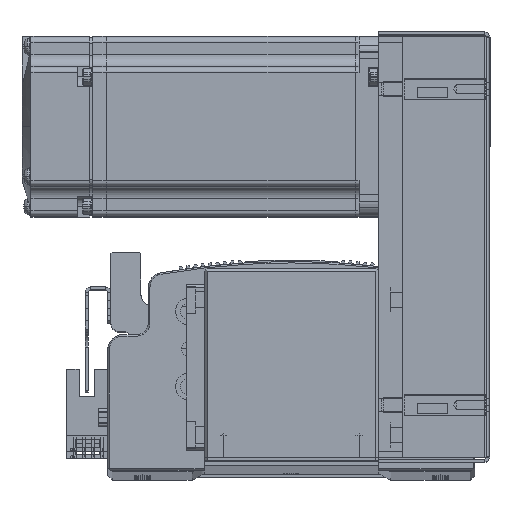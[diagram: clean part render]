
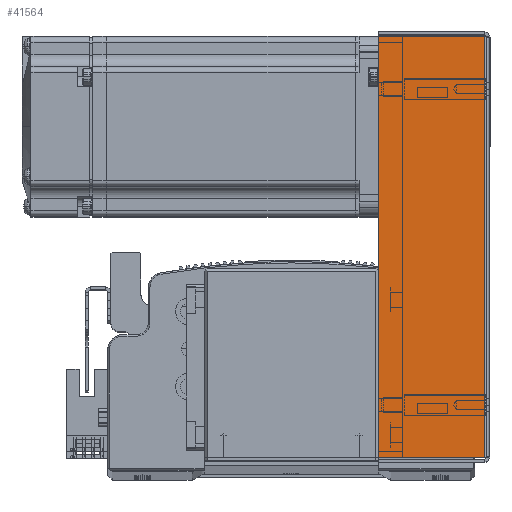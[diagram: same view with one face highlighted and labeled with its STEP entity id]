
A CAD part, top view. The second image highlights one B-rep face of the part: STEP entity #41564.
In plain terms, the highlighted planar face has unit normal (0, 0, 1) as drawn and (0, 0, -1) by its records, which use the part's own axes.
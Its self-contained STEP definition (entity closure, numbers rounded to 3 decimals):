
#4302 = CARTESIAN_POINT ( 'NONE',  ( 69.793, 36., -33.5 ) ) ;
#4401 = CARTESIAN_POINT ( 'NONE',  ( -69.793, 36., -33.5 ) ) ;
#4413 = CARTESIAN_POINT ( 'NONE',  ( -69.793, 0.737, -33.5 ) ) ;
#4428 = CARTESIAN_POINT ( 'NONE',  ( 69.793, 0.737, -33.5 ) ) ;
#12343 = AXIS2_PLACEMENT_3D ( 'NONE', #58420, #58418, #58435 ) ;
#27920 = LINE ( 'NONE', #34746, #27921 ) ;
#27921 = VECTOR ( 'NONE', #34758, 1000. ) ;
#27937 = VECTOR ( 'NONE', #34693, 1000. ) ;
#27941 = LINE ( 'NONE', #34770, #27937 ) ;
#27951 = LINE ( 'NONE', #34733, #27953 ) ;
#27953 = VECTOR ( 'NONE', #34816, 1000. ) ;
#27962 = LINE ( 'NONE', #34802, #27974 ) ;
#27974 = VECTOR ( 'NONE', #34803, 1000. ) ;
#33158 = FACE_OUTER_BOUND ( 'NONE', #92263, .T. ) ;
#34693 = DIRECTION ( 'NONE',  ( 1., 0., 0. ) ) ;
#34733 = CARTESIAN_POINT ( 'NONE',  ( 69.793, 0., -33.5 ) ) ;
#34746 = CARTESIAN_POINT ( 'NONE',  ( -69.793, 0., -33.5 ) ) ;
#34758 = DIRECTION ( 'NONE',  ( 0., 1., 0. ) ) ;
#34770 = CARTESIAN_POINT ( 'NONE',  ( 0., 36., -33.5 ) ) ;
#34802 = CARTESIAN_POINT ( 'NONE',  ( 71.5, 0.737, -33.5 ) ) ;
#34803 = DIRECTION ( 'NONE',  ( 1., 0., 0. ) ) ;
#34816 = DIRECTION ( 'NONE',  ( 0., 1., 0. ) ) ;
#41564 = ADVANCED_FACE ( 'NONE', ( #33158 ), #58433, .F. ) ;
#48311 = EDGE_CURVE ( 'NONE', #89714, #89710, #27920, .T. ) ;
#48318 = EDGE_CURVE ( 'NONE', #89710, #89672, #27941, .T. ) ;
#48324 = EDGE_CURVE ( 'NONE', #89695, #89672, #27951, .T. ) ;
#48337 = EDGE_CURVE ( 'NONE', #89714, #89695, #27962, .T. ) ;
#58418 = DIRECTION ( 'NONE',  ( 0., 0., 1. ) ) ;
#58420 = CARTESIAN_POINT ( 'NONE',  ( 0., 0., -33.5 ) ) ;
#58433 = PLANE ( 'NONE',  #12343 ) ;
#58435 = DIRECTION ( 'NONE',  ( 0., -1., 0. ) ) ;
#87677 = ORIENTED_EDGE ( 'NONE', *, *, #48311, .T. ) ;
#87699 = ORIENTED_EDGE ( 'NONE', *, *, #48318, .T. ) ;
#87712 = ORIENTED_EDGE ( 'NONE', *, *, #48324, .F. ) ;
#87716 = ORIENTED_EDGE ( 'NONE', *, *, #48337, .F. ) ;
#89672 = VERTEX_POINT ( 'NONE', #4302 ) ;
#89695 = VERTEX_POINT ( 'NONE', #4428 ) ;
#89710 = VERTEX_POINT ( 'NONE', #4401 ) ;
#89714 = VERTEX_POINT ( 'NONE', #4413 ) ;
#92263 = EDGE_LOOP ( 'NONE', ( #87716, #87677, #87699, #87712 ) ) ;
